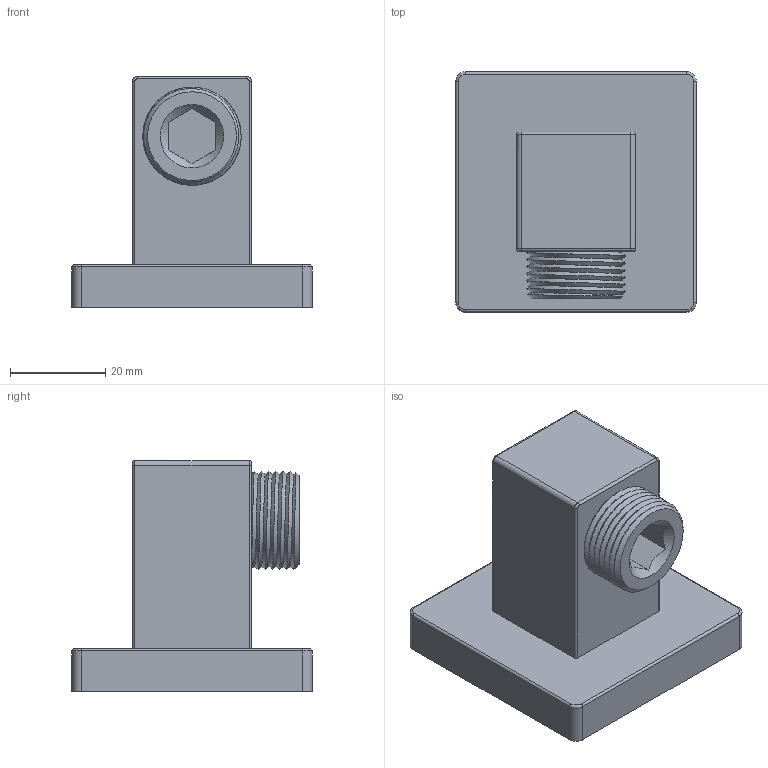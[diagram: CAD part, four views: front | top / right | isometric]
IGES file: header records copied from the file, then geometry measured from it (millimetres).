
Global section: file name: c9cb826e-45f7-4640-ad0b-2d6b80585c02.zip; native system: unknown; preprocessor: unknown; author: unknown; organization: unknown; date: 20191214.155308; units: millimetre
Bounding box: 50.5 x 50.5 x 48.5 mm (x, y, z)
Volume: 49781.1 mm3; surface area: 12296.9 mm2
Topology: 2 solids, 2 shells, 49 faces, 118 edges, 74 vertices
Faces by surface type: bspline 49
